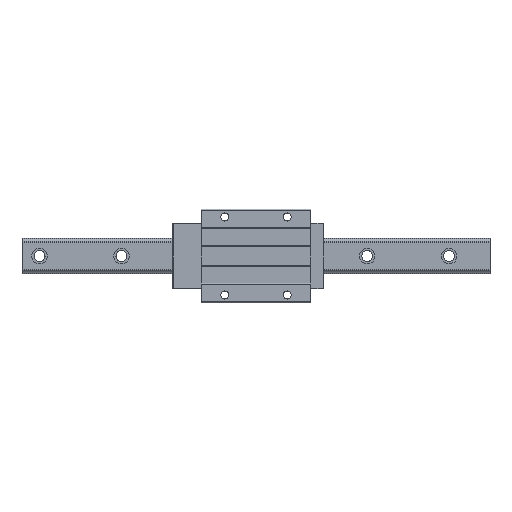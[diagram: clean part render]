
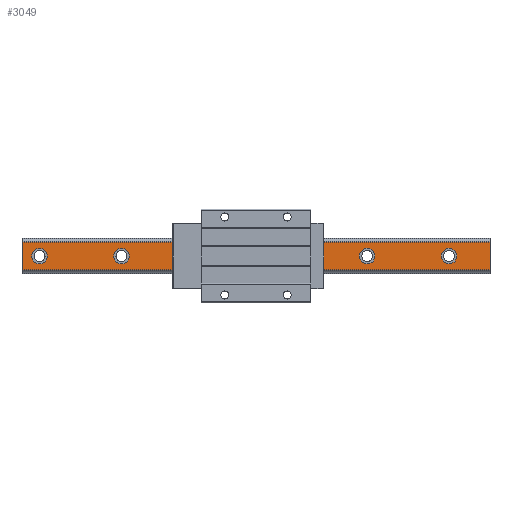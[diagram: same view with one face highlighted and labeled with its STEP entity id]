
A CAD part, top view. The second image highlights one B-rep face of the part: STEP entity #3049.
In plain terms, the highlighted planar face has unit normal (0, 0, 1).
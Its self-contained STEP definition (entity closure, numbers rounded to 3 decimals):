
#12 = VERTEX_POINT ( 'NONE', #2309 ) ;
#33 = CARTESIAN_POINT ( 'NONE',  ( -300., -17.738, 32. ) ) ;
#46 = CIRCLE ( 'NONE', #6204, 10. ) ;
#81 = ORIENTED_EDGE ( 'NONE', *, *, #3104, .F. ) ;
#134 = AXIS2_PLACEMENT_3D ( 'NONE', #4556, #4445, #6121 ) ;
#161 = DIRECTION ( 'NONE',  ( 0., 0., 1. ) ) ;
#214 = CARTESIAN_POINT ( 'NONE',  ( -172.5, 0., 32. ) ) ;
#248 = DIRECTION ( 'NONE',  ( 0., 0., 1. ) ) ;
#298 = AXIS2_PLACEMENT_3D ( 'NONE', #3931, #6190, #5576 ) ;
#441 = VECTOR ( 'NONE', #5095, 1000. ) ;
#520 = CARTESIAN_POINT ( 'NONE',  ( -162.5, 0., 32. ) ) ;
#544 = EDGE_CURVE ( 'NONE', #3924, #612, #6268, .T. ) ;
#593 = DIRECTION ( 'NONE',  ( 0., 0., 1. ) ) ;
#612 = VERTEX_POINT ( 'NONE', #33 ) ;
#640 = EDGE_CURVE ( 'NONE', #1938, #2118, #6125, .T. ) ;
#646 = EDGE_CURVE ( 'NONE', #5514, #3684, #6624, .T. ) ;
#678 = DIRECTION ( 'NONE',  ( 1., 0., 0. ) ) ;
#789 = AXIS2_PLACEMENT_3D ( 'NONE', #7142, #3236, #6003 ) ;
#914 = CARTESIAN_POINT ( 'NONE',  ( 247.5, 0., 32. ) ) ;
#919 = DIRECTION ( 'NONE',  ( 1., 0., 0. ) ) ;
#935 = DIRECTION ( 'NONE',  ( -1., 0., 0. ) ) ;
#1129 = VECTOR ( 'NONE', #5222, 1000. ) ;
#1151 = EDGE_CURVE ( 'NONE', #7333, #3473, #46, .T. ) ;
#1170 = DIRECTION ( 'NONE',  ( -1., 0., 0. ) ) ;
#1222 = ORIENTED_EDGE ( 'NONE', *, *, #646, .F. ) ;
#1295 = EDGE_CURVE ( 'NONE', #6162, #2811, #2841, .T. ) ;
#1316 = DIRECTION ( 'NONE',  ( 1., 0., 0. ) ) ;
#1333 = CARTESIAN_POINT ( 'NONE',  ( 300., -17.738, 32. ) ) ;
#1568 = CIRCLE ( 'NONE', #5588, 10. ) ;
#1686 = CARTESIAN_POINT ( 'NONE',  ( -287.5, 0., 32. ) ) ;
#1694 = EDGE_LOOP ( 'NONE', ( #7103, #4875, #2306, #6096 ) ) ;
#1735 = CARTESIAN_POINT ( 'NONE',  ( 257.5, 0., 32. ) ) ;
#1784 = DIRECTION ( 'NONE',  ( 1., 0., 0. ) ) ;
#1785 = EDGE_LOOP ( 'NONE', ( #6633, #81 ) ) ;
#1895 = AXIS2_PLACEMENT_3D ( 'NONE', #2480, #3699, #1316 ) ;
#1922 = DIRECTION ( 'NONE',  ( 1., 0., 0. ) ) ;
#1938 = VERTEX_POINT ( 'NONE', #7330 ) ;
#2029 = CARTESIAN_POINT ( 'NONE',  ( -172.5, 0., 32. ) ) ;
#2062 = CIRCLE ( 'NONE', #6174, 10. ) ;
#2118 = VERTEX_POINT ( 'NONE', #3839 ) ;
#2119 = AXIS2_PLACEMENT_3D ( 'NONE', #5664, #5734, #1784 ) ;
#2130 = AXIS2_PLACEMENT_3D ( 'NONE', #2029, #248, #4720 ) ;
#2195 = CARTESIAN_POINT ( 'NONE',  ( 27.5, 0., 32. ) ) ;
#2292 = CIRCLE ( 'NONE', #3830, 10. ) ;
#2297 = CARTESIAN_POINT ( 'NONE',  ( 300., 17.738, 32. ) ) ;
#2306 = ORIENTED_EDGE ( 'NONE', *, *, #1295, .F. ) ;
#2309 = CARTESIAN_POINT ( 'NONE',  ( -57.5, 0., 32. ) ) ;
#2464 = VERTEX_POINT ( 'NONE', #5901 ) ;
#2480 = CARTESIAN_POINT ( 'NONE',  ( 142.5, 0., 32. ) ) ;
#2495 = CARTESIAN_POINT ( 'NONE',  ( -300., 17.738, 32. ) ) ;
#2642 = ORIENTED_EDGE ( 'NONE', *, *, #5237, .F. ) ;
#2655 = ORIENTED_EDGE ( 'NONE', *, *, #3695, .F. ) ;
#2714 = VERTEX_POINT ( 'NONE', #2195 ) ;
#2749 = CARTESIAN_POINT ( 'NONE',  ( 37.5, 0., 32. ) ) ;
#2811 = VERTEX_POINT ( 'NONE', #3054 ) ;
#2832 = CARTESIAN_POINT ( 'NONE',  ( 237.5, 0., 32. ) ) ;
#2841 = LINE ( 'NONE', #1333, #1129 ) ;
#2864 = FACE_BOUND ( 'NONE', #7159, .T. ) ;
#2900 = DIRECTION ( 'NONE',  ( 1., 0., 0. ) ) ;
#2972 = ORIENTED_EDGE ( 'NONE', *, *, #1151, .F. ) ;
#3049 = ADVANCED_FACE ( 'NONE', ( #3971, #3859, #5543, #2864, #3893, #4001, #5686 ), #3345, .F. ) ;
#3054 = CARTESIAN_POINT ( 'NONE',  ( 300., -17.738, 32. ) ) ;
#3072 = EDGE_CURVE ( 'NONE', #6162, #3924, #4476, .T. ) ;
#3104 = EDGE_CURVE ( 'NONE', #2714, #2464, #6112, .T. ) ;
#3125 = CIRCLE ( 'NONE', #4982, 10. ) ;
#3158 = EDGE_LOOP ( 'NONE', ( #5610, #4435 ) ) ;
#3236 = DIRECTION ( 'NONE',  ( 0., 0., 1. ) ) ;
#3317 = CARTESIAN_POINT ( 'NONE',  ( -77.5, 0., 32. ) ) ;
#3344 = EDGE_CURVE ( 'NONE', #5487, #7068, #4361, .T. ) ;
#3345 = PLANE ( 'NONE',  #298 ) ;
#3473 = VERTEX_POINT ( 'NONE', #1686 ) ;
#3585 = CARTESIAN_POINT ( 'NONE',  ( -67.5, 0., 32. ) ) ;
#3684 = VERTEX_POINT ( 'NONE', #7201 ) ;
#3695 = EDGE_CURVE ( 'NONE', #2118, #1938, #6369, .T. ) ;
#3699 = DIRECTION ( 'NONE',  ( 0., 0., 1. ) ) ;
#3750 = EDGE_CURVE ( 'NONE', #2464, #2714, #4367, .T. ) ;
#3830 = AXIS2_PLACEMENT_3D ( 'NONE', #914, #7161, #5440 ) ;
#3839 = CARTESIAN_POINT ( 'NONE',  ( 132.5, 0., 32. ) ) ;
#3859 = FACE_BOUND ( 'NONE', #6610, .T. ) ;
#3893 = FACE_BOUND ( 'NONE', #4498, .T. ) ;
#3924 = VERTEX_POINT ( 'NONE', #2495 ) ;
#3931 = CARTESIAN_POINT ( 'NONE',  ( 300., -17.738, 32. ) ) ;
#3971 = FACE_BOUND ( 'NONE', #3158, .T. ) ;
#3992 = CARTESIAN_POINT ( 'NONE',  ( -267.5, 0., 32. ) ) ;
#4001 = FACE_BOUND ( 'NONE', #5254, .T. ) ;
#4074 = VERTEX_POINT ( 'NONE', #3317 ) ;
#4082 = CIRCLE ( 'NONE', #134, 10. ) ;
#4084 = CARTESIAN_POINT ( 'NONE',  ( -277.5, 0., 32. ) ) ;
#4326 = CARTESIAN_POINT ( 'NONE',  ( 300., -17.738, 32. ) ) ;
#4361 = CIRCLE ( 'NONE', #789, 10. ) ;
#4367 = CIRCLE ( 'NONE', #2119, 10. ) ;
#4369 = EDGE_CURVE ( 'NONE', #3684, #5514, #3125, .T. ) ;
#4417 = DIRECTION ( 'NONE',  ( 1., 0., 0. ) ) ;
#4435 = ORIENTED_EDGE ( 'NONE', *, *, #5434, .F. ) ;
#4445 = DIRECTION ( 'NONE',  ( 0., 0., 1. ) ) ;
#4462 = ORIENTED_EDGE ( 'NONE', *, *, #640, .F. ) ;
#4476 = LINE ( 'NONE', #2297, #7087 ) ;
#4498 = EDGE_LOOP ( 'NONE', ( #1222, #4974 ) ) ;
#4543 = EDGE_CURVE ( 'NONE', #2811, #612, #7260, .T. ) ;
#4556 = CARTESIAN_POINT ( 'NONE',  ( -67.5, 0., 32. ) ) ;
#4692 = DIRECTION ( 'NONE',  ( 0., 0., 1. ) ) ;
#4719 = CARTESIAN_POINT ( 'NONE',  ( 300., 17.738, 32. ) ) ;
#4720 = DIRECTION ( 'NONE',  ( 1., 0., 0. ) ) ;
#4822 = DIRECTION ( 'NONE',  ( 0., 0., 1. ) ) ;
#4875 = ORIENTED_EDGE ( 'NONE', *, *, #4543, .F. ) ;
#4928 = ORIENTED_EDGE ( 'NONE', *, *, #7145, .F. ) ;
#4957 = CARTESIAN_POINT ( 'NONE',  ( 142.5, 0., 32. ) ) ;
#4974 = ORIENTED_EDGE ( 'NONE', *, *, #4369, .F. ) ;
#4982 = AXIS2_PLACEMENT_3D ( 'NONE', #214, #4692, #1922 ) ;
#5095 = DIRECTION ( 'NONE',  ( 0., -1., 0. ) ) ;
#5222 = DIRECTION ( 'NONE',  ( 0., -1., 0. ) ) ;
#5237 = EDGE_CURVE ( 'NONE', #4074, #12, #1568, .T. ) ;
#5254 = EDGE_LOOP ( 'NONE', ( #2972, #4928 ) ) ;
#5408 = DIRECTION ( 'NONE',  ( 0., 0., 1. ) ) ;
#5434 = EDGE_CURVE ( 'NONE', #7068, #5487, #2292, .T. ) ;
#5440 = DIRECTION ( 'NONE',  ( 1., 0., 0. ) ) ;
#5487 = VERTEX_POINT ( 'NONE', #1735 ) ;
#5514 = VERTEX_POINT ( 'NONE', #520 ) ;
#5543 = FACE_BOUND ( 'NONE', #1785, .T. ) ;
#5576 = DIRECTION ( 'NONE',  ( 0., -1., 0. ) ) ;
#5588 = AXIS2_PLACEMENT_3D ( 'NONE', #3585, #161, #6941 ) ;
#5610 = ORIENTED_EDGE ( 'NONE', *, *, #3344, .F. ) ;
#5614 = CARTESIAN_POINT ( 'NONE',  ( -300., -17.738, 32. ) ) ;
#5659 = AXIS2_PLACEMENT_3D ( 'NONE', #4957, #7239, #4417 ) ;
#5664 = CARTESIAN_POINT ( 'NONE',  ( 37.5, 0., 32. ) ) ;
#5686 = FACE_OUTER_BOUND ( 'NONE', #1694, .T. ) ;
#5734 = DIRECTION ( 'NONE',  ( 0., 0., 1. ) ) ;
#5901 = CARTESIAN_POINT ( 'NONE',  ( 47.5, 0., 32. ) ) ;
#5990 = CARTESIAN_POINT ( 'NONE',  ( -277.5, 0., 32. ) ) ;
#6003 = DIRECTION ( 'NONE',  ( 1., 0., 0. ) ) ;
#6096 = ORIENTED_EDGE ( 'NONE', *, *, #3072, .T. ) ;
#6112 = CIRCLE ( 'NONE', #6857, 10. ) ;
#6121 = DIRECTION ( 'NONE',  ( 1., 0., 0. ) ) ;
#6124 = ORIENTED_EDGE ( 'NONE', *, *, #6997, .F. ) ;
#6125 = CIRCLE ( 'NONE', #1895, 10. ) ;
#6162 = VERTEX_POINT ( 'NONE', #4719 ) ;
#6174 = AXIS2_PLACEMENT_3D ( 'NONE', #4084, #4822, #678 ) ;
#6190 = DIRECTION ( 'NONE',  ( 0., 0., -1. ) ) ;
#6204 = AXIS2_PLACEMENT_3D ( 'NONE', #5990, #5408, #919 ) ;
#6268 = LINE ( 'NONE', #5614, #441 ) ;
#6369 = CIRCLE ( 'NONE', #5659, 10. ) ;
#6399 = VECTOR ( 'NONE', #935, 1000. ) ;
#6610 = EDGE_LOOP ( 'NONE', ( #4462, #2655 ) ) ;
#6624 = CIRCLE ( 'NONE', #2130, 10. ) ;
#6633 = ORIENTED_EDGE ( 'NONE', *, *, #3750, .F. ) ;
#6857 = AXIS2_PLACEMENT_3D ( 'NONE', #2749, #593, #2900 ) ;
#6941 = DIRECTION ( 'NONE',  ( 1., 0., 0. ) ) ;
#6997 = EDGE_CURVE ( 'NONE', #12, #4074, #4082, .T. ) ;
#7068 = VERTEX_POINT ( 'NONE', #2832 ) ;
#7087 = VECTOR ( 'NONE', #1170, 1000. ) ;
#7103 = ORIENTED_EDGE ( 'NONE', *, *, #544, .T. ) ;
#7142 = CARTESIAN_POINT ( 'NONE',  ( 247.5, 0., 32. ) ) ;
#7145 = EDGE_CURVE ( 'NONE', #3473, #7333, #2062, .T. ) ;
#7159 = EDGE_LOOP ( 'NONE', ( #6124, #2642 ) ) ;
#7161 = DIRECTION ( 'NONE',  ( 0., 0., 1. ) ) ;
#7201 = CARTESIAN_POINT ( 'NONE',  ( -182.5, 0., 32. ) ) ;
#7239 = DIRECTION ( 'NONE',  ( 0., 0., 1. ) ) ;
#7260 = LINE ( 'NONE', #4326, #6399 ) ;
#7330 = CARTESIAN_POINT ( 'NONE',  ( 152.5, 0., 32. ) ) ;
#7333 = VERTEX_POINT ( 'NONE', #3992 ) ;
